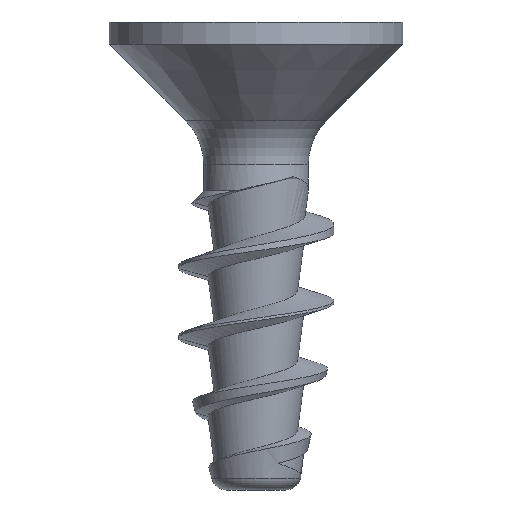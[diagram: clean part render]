
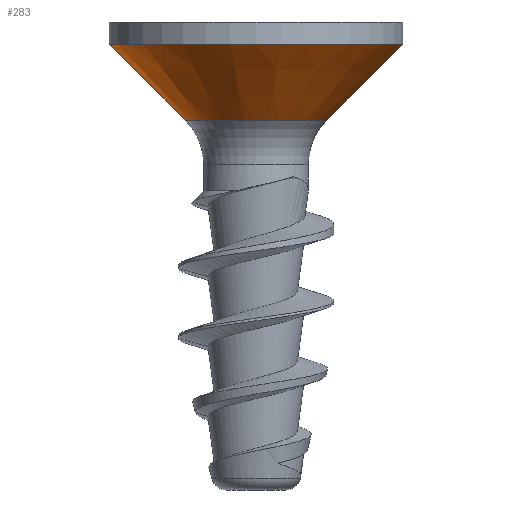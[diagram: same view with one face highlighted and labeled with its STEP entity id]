
A CAD part, front view. The second image highlights one B-rep face of the part: STEP entity #283.
In plain terms, the highlighted conical face has half-angle 45 degrees and reference radius 2.015 mm.
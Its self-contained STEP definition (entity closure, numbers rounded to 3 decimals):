
#260=FACE_BOUND('',#430,.T.);
#261=FACE_BOUND('',#431,.T.);
#270=CONICAL_SURFACE('',#1271,2.015,45.);
#283=ADVANCED_FACE('',(#260,#261),#270,.T.);
#430=EDGE_LOOP('',(#589));
#431=EDGE_LOOP('',(#590));
#507=CIRCLE('',#1269,2.718);
#508=CIRCLE('',#1270,5.65);
#589=ORIENTED_EDGE('',*,*,#1060,.T.);
#590=ORIENTED_EDGE('',*,*,#1061,.F.);
#938=VERTEX_POINT('',#2229);
#939=VERTEX_POINT('',#2231);
#1060=EDGE_CURVE('',#938,#938,#507,.T.);
#1061=EDGE_CURVE('',#939,#939,#508,.T.);
#1269=AXIS2_PLACEMENT_3D('',#2228,#1409,#1410);
#1270=AXIS2_PLACEMENT_3D('',#2230,#1411,#1412);
#1271=AXIS2_PLACEMENT_3D('',#2232,#1413,#1414);
#1409=DIRECTION('',(0.,0.,1.));
#1410=DIRECTION('',(1.,0.,0.));
#1411=DIRECTION('',(0.,0.,1.));
#1412=DIRECTION('',(1.,0.,0.));
#1413=DIRECTION('',(0.,0.,1.));
#1414=DIRECTION('',(1.,0.,0.));
#2228=CARTESIAN_POINT('',(0.,0.,0.703));
#2229=CARTESIAN_POINT('',(2.718,0.,0.703));
#2230=CARTESIAN_POINT('',(0.,0.,3.635));
#2231=CARTESIAN_POINT('',(5.65,0.,3.635));
#2232=CARTESIAN_POINT('',(0.,0.,0.));
